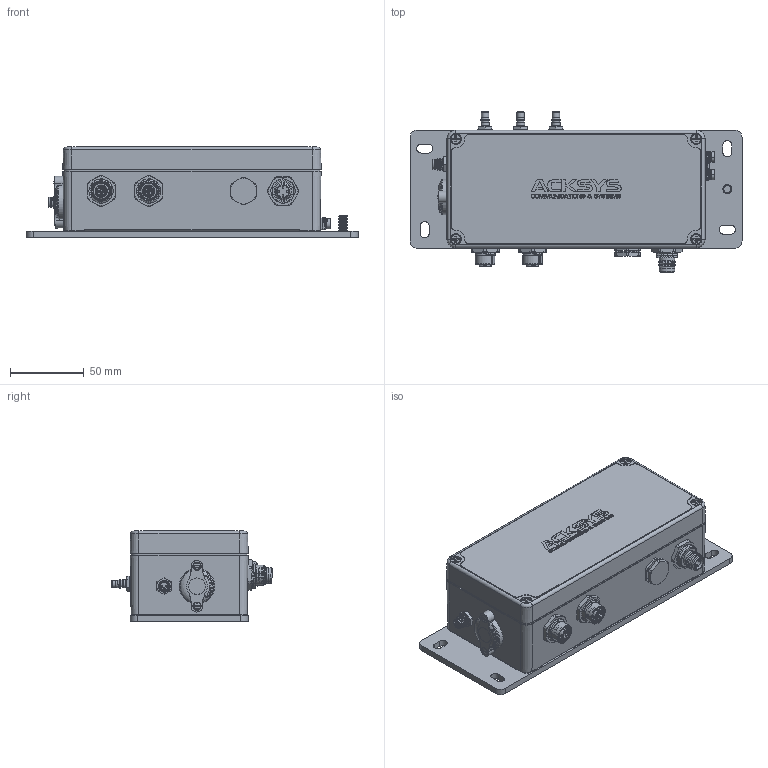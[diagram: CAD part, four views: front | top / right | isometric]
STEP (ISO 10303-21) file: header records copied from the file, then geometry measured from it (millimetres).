
FILE_DESCRIPTION(/* description */ (''),/* implementation_level */ '2;1');
FILE_NAME(/* name */ 'C:\Users\Jonathan\Documents\RailBox\Méca\RailBox_X0AXf.stp',/* time_stamp */ '2020-08-05T18:12:19+02:00',/* author */ ('Jonathan'),/* organization */ (''),/* preprocessor_version */ 'ST-DEVELOPER v18',/* originating_system */ 'AutoCAD Mechanical',/* authorisation */ '');
FILE_SCHEMA (('AUTOMOTIVE_DESIGN { 1 0 10303 214 3 1 1 }'));
Products named in the file (2): Product; QMA
Assembly tree (3 placements, depth 2):
  Product
    QMA  x3
Bounding box: 225 x 108.65 x 61.55 mm (x, y, z)
Volume: 277380.5 mm3; surface area: 164078.6 mm2
Topology: 29 solids, 43 shells, 3630 faces, 9508 edges, 6079 vertices
Faces by surface type: plane 1945, cylinder 729, cone 483, torus 230, bspline 196, sphere 47
Full cylindrical faces by diameter (mm): 0.6 x16, 0.7 x16, 0.95 x3, 1 x9, 1.1 x16, 1.2 x4, 1.24 x16, 1.275 x3, 1.29 x6, 1.876 x3, 3 x2, 3.141 x6, 3.2 x2, 3.3 x5, 3.7 x4, 4 x8, 4.06 x6, 4.1 x3, 4.5 x8, 4.6 x3, 4.9 x3, 4.95 x3, 5.52 x3, 5.57 x3, 5.8 x1, 6 x13, 6.159 x1, 6.5 x3, 6.9 x1, 7 x2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
Entity records: 122455 total; most frequent: CARTESIAN_POINT 40769, ORIENTED_EDGE 17532, DIRECTION 16490, EDGE_CURVE 8766, VERTEX_POINT 5643, AXIS2_PLACEMENT_3D 5621, LINE 5248, VECTOR 5248
